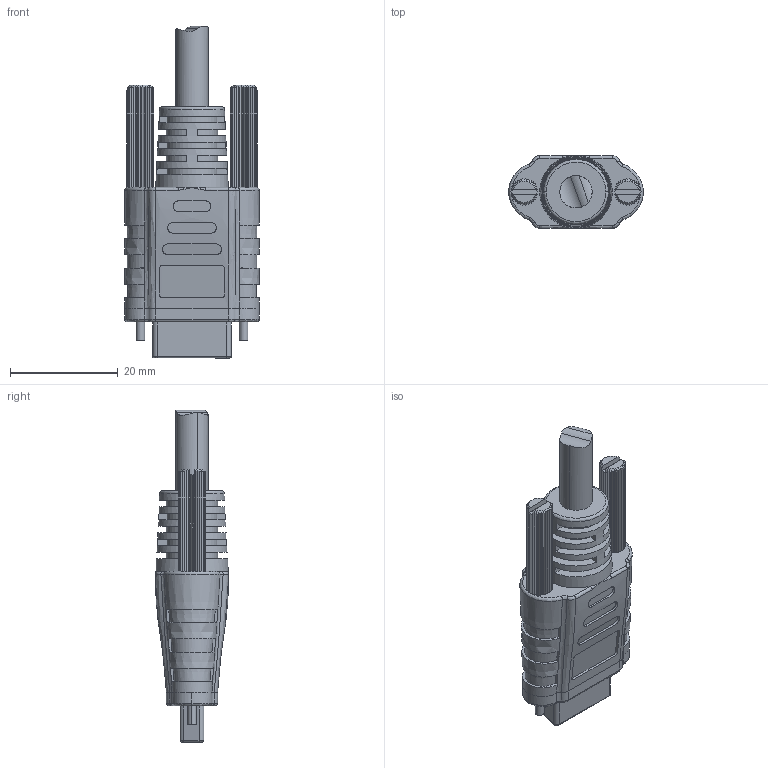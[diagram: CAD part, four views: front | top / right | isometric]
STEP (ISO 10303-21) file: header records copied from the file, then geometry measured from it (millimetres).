
FILE_DESCRIPTION (( 'STEP AP214' ), '1' );
FILE_NAME ('MVC-5.STEP', '2023-06-23T08:12:14', ( '' ), ( '' ), 'SwSTEP 2.0', 'SolidWorks 2021', '' );
FILE_SCHEMA (( 'AUTOMOTIVE_DESIGN' ));
Length unit declared in the file: millimetre
Products named in the file (5): MI_Cable_NaN; HDR-E26MAGI+; MVC-5; MCV-5 mold; MVC-5 TS
Assembly tree (5 placements, depth 2):
  MVC-5
    MCV-5 mold
    HDR-E26MAGI+
    MVC-5 TS  x2
    MI_Cable_NaN
Bounding box: 25.01 x 13.52 x 61.7 mm (x, y, z)
Volume: 8637.1 mm3; surface area: 6713.4 mm2
Topology: 5 solids, 5 shells, 564 faces, 1472 edges, 943 vertices
Faces by surface type: plane 295, bspline 105, cylinder 92, cone 72
Entity records: 30105 total; most frequent: CARTESIAN_POINT 19512, ORIENTED_EDGE 2312, DIRECTION 1609, EDGE_CURVE 1156, VERTEX_POINT 734, AXIS2_PLACEMENT_3D 542, LINE 525, VECTOR 525
